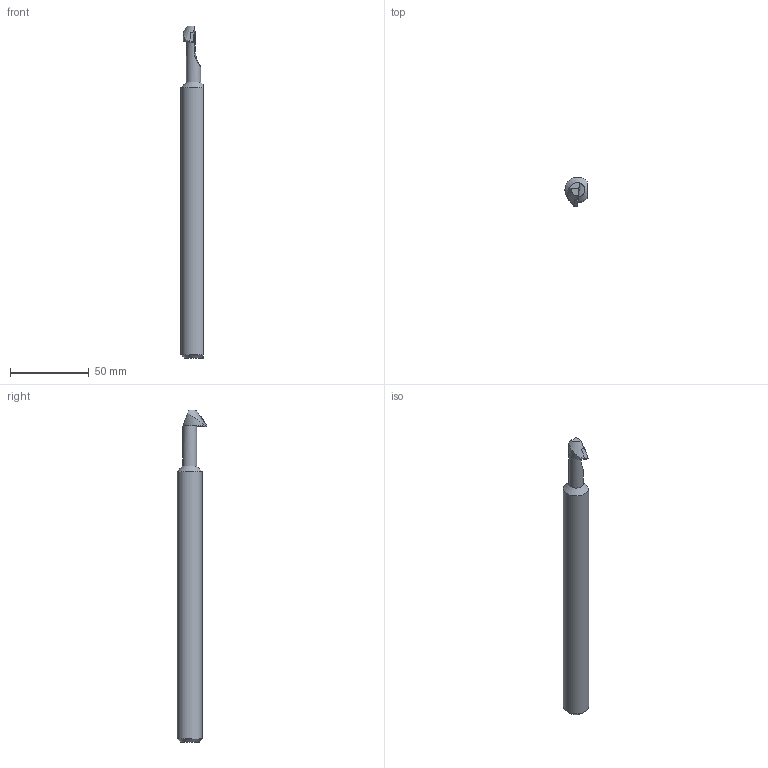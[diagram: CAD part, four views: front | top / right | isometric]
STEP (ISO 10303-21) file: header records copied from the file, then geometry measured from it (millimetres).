
FILE_DESCRIPTION(/* description */ (''),/* implementation_level */ '2;1');
FILE_NAME(/* name */ 'A16R-SDZCR-07-HAAS.stp',/* time_stamp */ '2021-09-29T09:19:38+09:00',/* author */ (''),/* organization */ (''),/* preprocessor_version */ 'ST-DEVELOPER v11',/* originating_system */ 'SIEMENS UGS NX 6.0',/* authorisation */ '');
FILE_SCHEMA (('CONFIG_CONTROL_DESIGN'));
Length unit declared in the file: millimetre
Products named in the file (1): userA9FD65lk
Bounding box: 14 x 19 x 210.63 mm (x, y, z)
Volume: 34232.9 mm3; surface area: 10071.2 mm2
Topology: 2 solids, 3 shells, 25 faces, 55 edges, 36 vertices
Faces by surface type: plane 13, cone 6, cylinder 5, bspline 1
Full cylindrical faces by diameter (mm): 3.5 x1, 4 x1, 9 x1
Entity records: 798 total; most frequent: CARTESIAN_POINT 197, DIRECTION 106, ORIENTED_EDGE 96, EDGE_CURVE 48, AXIS2_PLACEMENT_3D 42, VERTEX_POINT 33, EDGE_LOOP 31, ADVANCED_FACE 25
